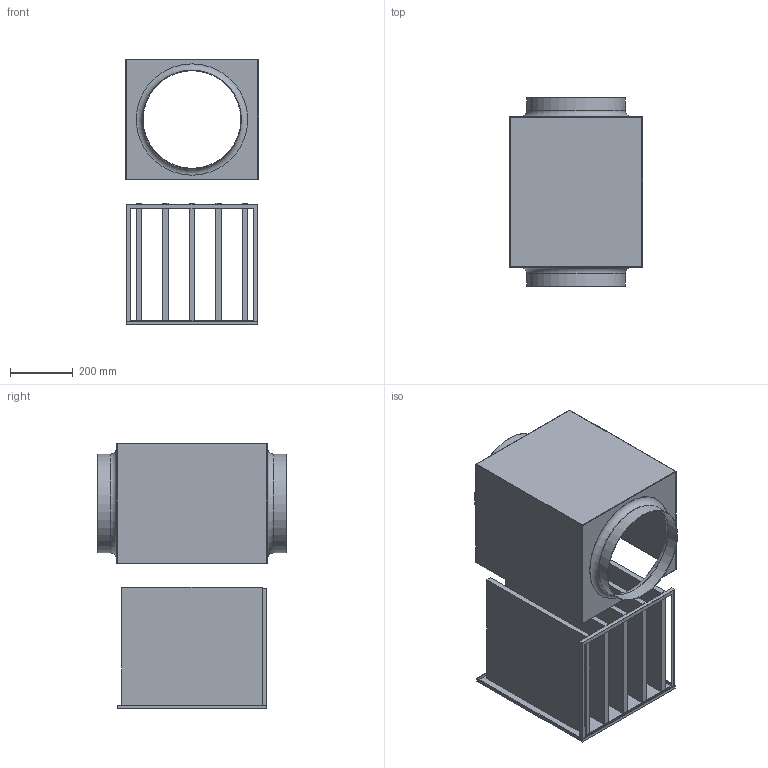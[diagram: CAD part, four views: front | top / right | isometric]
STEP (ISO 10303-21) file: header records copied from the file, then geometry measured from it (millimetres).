
FILE_DESCRIPTION(/* description */ (''),/* implementation_level */ '2;1');
FILE_NAME(/* name */ 'Z:\Output\LFBR_315_F7-08535-001.stp',/* time_stamp */ '2017-07-19T17:49:32+02:00',/* author */ ('engineering1'),/* organization */ (''),/* preprocessor_version */ 'ST-DEVELOPER v16.5',/* originating_system */ 'Autodesk Inventor 2017',/* authorisation */ '');
FILE_SCHEMA (('AUTOMOTIVE_DESIGN { 1 0 10303 214 3 1 1 }'));
Length unit declared in the file: millimetre
Products named in the file (1): LFBR
Bounding box: 424 x 600 x 847 mm (x, y, z)
Volume: 16775432.7 mm3; surface area: 3962632.2 mm2
Topology: 2 solids, 2 shells, 100 faces, 249 edges, 146 vertices
Faces by surface type: plane 75, cylinder 15, sphere 6, torus 4
Full cylindrical faces by diameter (mm): 311 x2, 315 x2
Entity records: 2953 total; most frequent: CARTESIAN_POINT 488, ORIENTED_EDGE 482, DIRECTION 475, EDGE_CURVE 241, LINE 209, VECTOR 209, VERTEX_POINT 146, AXIS2_PLACEMENT_3D 133
